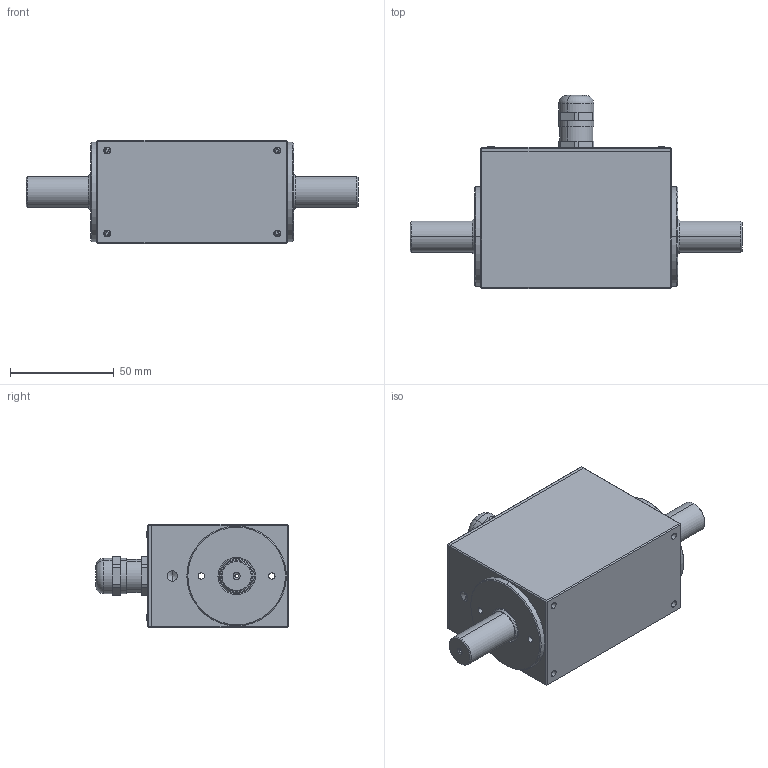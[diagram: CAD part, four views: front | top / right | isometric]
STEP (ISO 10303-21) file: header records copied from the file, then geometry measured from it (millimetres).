
FILE_DESCRIPTION (( 'STEP AP203' ), '1' );
FILE_NAME ('DRWPL-II.STEP', '2014-05-13T08:20:33', ( 'nsi' ), ( '' ), 'SwSTEP 2.0', 'SolidWorks 2014', '' );
FILE_SCHEMA (( 'CONFIG_CONTROL_DESIGN' ));
Length unit declared in the file: millimetre
Products named in the file (1): DRWPL-II
Bounding box: 160 x 93 x 50 mm (x, y, z)
Surface area: 37175.4 mm2 (no closed solid volume)
Topology: 0 solids, 15 shells, 231 faces, 656 edges, 421 vertices
Faces by surface type: plane 123, cylinder 68, cone 30, sphere 8, torus 2
Entity records: 7589 total; most frequent: CARTESIAN_POINT 1387, DIRECTION 1380, ORIENTED_EDGE 1158, EDGE_CURVE 654, AXIS2_PLACEMENT_3D 510, VERTEX_POINT 421, LINE 360, VECTOR 360
